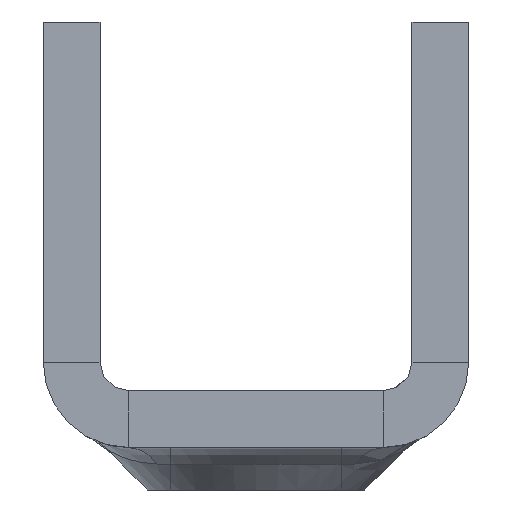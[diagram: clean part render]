
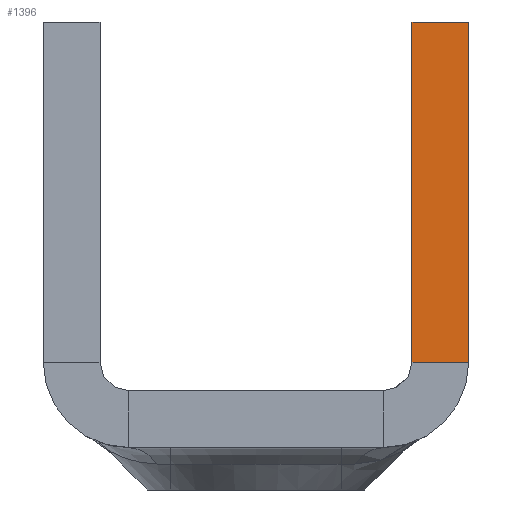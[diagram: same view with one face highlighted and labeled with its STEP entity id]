
A CAD part, front view. The second image highlights one B-rep face of the part: STEP entity #1396.
In plain terms, the highlighted planar face has unit normal (0, -1, 0).
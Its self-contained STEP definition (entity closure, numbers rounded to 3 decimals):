
#274=FACE_OUTER_BOUND('',#361,.T.);
#361=EDGE_LOOP('',(#1227,#1228,#1229,#1230));
#431=LINE('',#3608,#507);
#433=LINE('',#3611,#509);
#436=LINE('',#3619,#512);
#437=LINE('',#3620,#513);
#507=VECTOR('',#1942,1.88);
#509=VECTOR('',#1946,10.);
#512=VECTOR('',#1957,10.);
#513=VECTOR('',#1958,10.);
#623=VERTEX_POINT('',#3073);
#648=VERTEX_POINT('',#3605);
#649=VERTEX_POINT('',#3607);
#650=VERTEX_POINT('',#3618);
#845=EDGE_CURVE('',#649,#648,#431,.T.);
#847=EDGE_CURVE('',#648,#623,#433,.T.);
#852=EDGE_CURVE('',#623,#650,#436,.T.);
#853=EDGE_CURVE('',#649,#650,#437,.T.);
#1227=ORIENTED_EDGE('',*,*,#847,.T.);
#1228=ORIENTED_EDGE('',*,*,#852,.T.);
#1229=ORIENTED_EDGE('',*,*,#853,.F.);
#1230=ORIENTED_EDGE('',*,*,#845,.T.);
#1314=PLANE('',#1579);
#1396=ADVANCED_FACE('',(#274),#1314,.T.);
#1579=AXIS2_PLACEMENT_3D('',#3617,#1955,#1956);
#1942=DIRECTION('',(0.,0.,-1.));
#1946=DIRECTION('',(1.,0.,0.));
#1955=DIRECTION('center_axis',(0.,-1.,0.));
#1956=DIRECTION('ref_axis',(1.,0.,0.));
#1957=DIRECTION('',(0.,0.,1.));
#1958=DIRECTION('',(1.,0.,0.));
#3073=CARTESIAN_POINT('',(7.5,-2000.,3.));
#3605=CARTESIAN_POINT('',(5.5,-2000.,3.));
#3607=CARTESIAN_POINT('',(5.5,-2000.,15.));
#3608=CARTESIAN_POINT('',(5.5,-2000.,-2.906));
#3611=CARTESIAN_POINT('',(5.94,-2000.,3.));
#3617=CARTESIAN_POINT('Origin',(5.5,-2000.,3.));
#3618=CARTESIAN_POINT('',(7.5,-2000.,15.));
#3619=CARTESIAN_POINT('',(7.5,-2000.,3.));
#3620=CARTESIAN_POINT('',(5.5,-2000.,15.));
